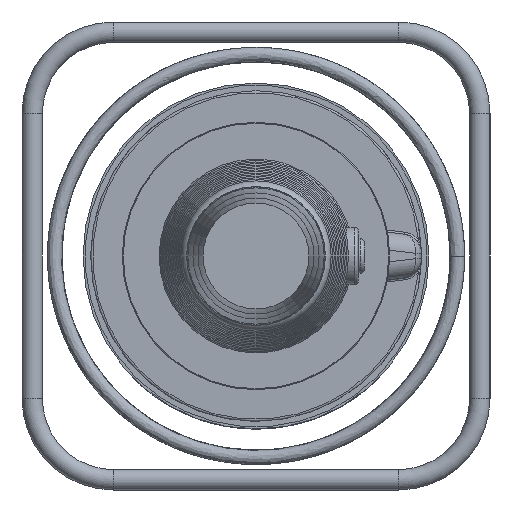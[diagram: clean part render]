
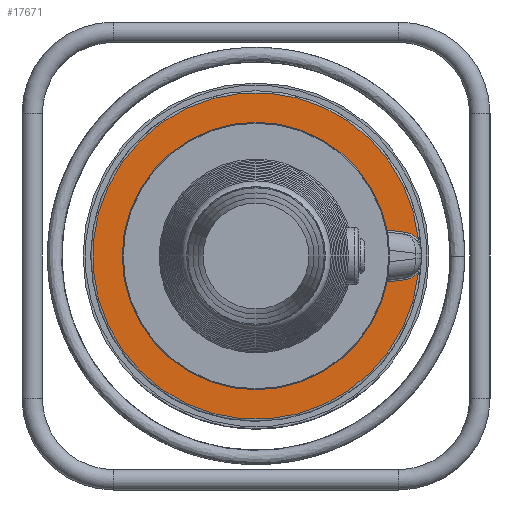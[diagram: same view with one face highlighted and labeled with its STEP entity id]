
A CAD part, left-side view. The second image highlights one B-rep face of the part: STEP entity #17671.
In plain terms, the highlighted planar face has unit normal (-1, 0, 0).
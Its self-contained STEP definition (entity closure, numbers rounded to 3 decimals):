
#1671=PLANE('',#18937);
#2603=LINE('',#41743,#3565);
#2605=LINE('',#41767,#3567);
#3565=VECTOR('',#22296,10.);
#3567=VECTOR('',#22326,10.);
#4659=FACE_OUTER_BOUND('',#5728,.T.);
#5728=EDGE_LOOP('',(#15809,#15810,#15811,#15812,#15813,#15814,#15815,#15816));
#6420=CIRCLE('',#18880,21.);
#6424=CIRCLE('',#18886,8.);
#6427=CIRCLE('',#18890,106.5);
#6430=CIRCLE('',#18894,8.);
#6434=CIRCLE('',#18900,21.);
#6443=CIRCLE('',#18917,160.5);
#8153=VERTEX_POINT('',#41710);
#8156=VERTEX_POINT('',#41735);
#8158=VERTEX_POINT('',#41741);
#8160=VERTEX_POINT('',#41747);
#8162=VERTEX_POINT('',#41753);
#8164=VERTEX_POINT('',#41759);
#8166=VERTEX_POINT('',#41765);
#8168=VERTEX_POINT('',#41771);
#10692=EDGE_CURVE('',#8156,#8153,#6420,.T.);
#10695=EDGE_CURVE('',#8158,#8156,#2603,.T.);
#10698=EDGE_CURVE('',#8160,#8158,#6424,.T.);
#10701=EDGE_CURVE('',#8162,#8160,#6427,.T.);
#10704=EDGE_CURVE('',#8164,#8162,#6430,.T.);
#10707=EDGE_CURVE('',#8166,#8164,#2605,.T.);
#10710=EDGE_CURVE('',#8168,#8166,#6434,.T.);
#10735=EDGE_CURVE('',#8153,#8168,#6443,.T.);
#15809=ORIENTED_EDGE('',*,*,#10710,.F.);
#15810=ORIENTED_EDGE('',*,*,#10735,.F.);
#15811=ORIENTED_EDGE('',*,*,#10692,.F.);
#15812=ORIENTED_EDGE('',*,*,#10695,.F.);
#15813=ORIENTED_EDGE('',*,*,#10698,.F.);
#15814=ORIENTED_EDGE('',*,*,#10701,.F.);
#15815=ORIENTED_EDGE('',*,*,#10704,.F.);
#15816=ORIENTED_EDGE('',*,*,#10707,.F.);
#17671=ADVANCED_FACE('',(#4659),#1671,.T.);
#18880=AXIS2_PLACEMENT_3D('',#41737,#22288,#22289);
#18886=AXIS2_PLACEMENT_3D('',#41749,#22302,#22303);
#18890=AXIS2_PLACEMENT_3D('',#41755,#22310,#22311);
#18894=AXIS2_PLACEMENT_3D('',#41761,#22318,#22319);
#18900=AXIS2_PLACEMENT_3D('',#41773,#22332,#22333);
#18917=AXIS2_PLACEMENT_3D('',#41924,#22376,#22377);
#18937=AXIS2_PLACEMENT_3D('',#42307,#22420,#22421);
#22288=DIRECTION('center_axis',(-1.,0.,0.));
#22289=DIRECTION('ref_axis',(0.,-0.558,-0.83));
#22296=DIRECTION('',(0.,-0.992,0.123));
#22302=DIRECTION('center_axis',(1.,0.,0.));
#22303=DIRECTION('ref_axis',(0.,0.634,0.773));
#22310=DIRECTION('center_axis',(-1.,0.,0.));
#22311=DIRECTION('ref_axis',(0.,1.,0.));
#22318=DIRECTION('center_axis',(1.,0.,0.));
#22319=DIRECTION('ref_axis',(0.,0.634,-0.773));
#22326=DIRECTION('',(0.,0.992,0.123));
#22332=DIRECTION('center_axis',(-1.,0.,0.));
#22333=DIRECTION('ref_axis',(0.,-0.558,0.83));
#22376=DIRECTION('center_axis',(1.,0.,0.));
#22377=DIRECTION('ref_axis',(0.,1.,0.));
#22420=DIRECTION('center_axis',(-1.,0.,0.));
#22421=DIRECTION('ref_axis',(0.,-1.,0.));
#41710=CARTESIAN_POINT('',(9.991,-159.713,-15.917));
#41735=CARTESIAN_POINT('',(9.991,-146.06,-23.435));
#41737=CARTESIAN_POINT('Origin',(9.991,-143.481,-2.594));
#41741=CARTESIAN_POINT('',(9.991,-107.675,-28.184));
#41743=CARTESIAN_POINT('',(9.991,-48.088,-35.557));
#41747=CARTESIAN_POINT('',(9.991,-101.065,-33.6));
#41749=CARTESIAN_POINT('Origin',(9.991,-108.657,-36.123));
#41753=CARTESIAN_POINT('',(9.991,-101.065,33.6));
#41755=CARTESIAN_POINT('Origin',(9.991,-0.004,0.));
#41759=CARTESIAN_POINT('',(9.991,-107.675,28.184));
#41761=CARTESIAN_POINT('Origin',(9.991,-108.657,36.123));
#41765=CARTESIAN_POINT('',(9.991,-146.06,23.435));
#41767=CARTESIAN_POINT('',(9.991,-64.356,33.544));
#41771=CARTESIAN_POINT('',(9.991,-159.713,15.917));
#41773=CARTESIAN_POINT('Origin',(9.991,-143.481,2.594));
#41924=CARTESIAN_POINT('Origin',(9.991,-0.004,0.));
#42307=CARTESIAN_POINT('Origin',(9.991,-0.004,-133.5));
